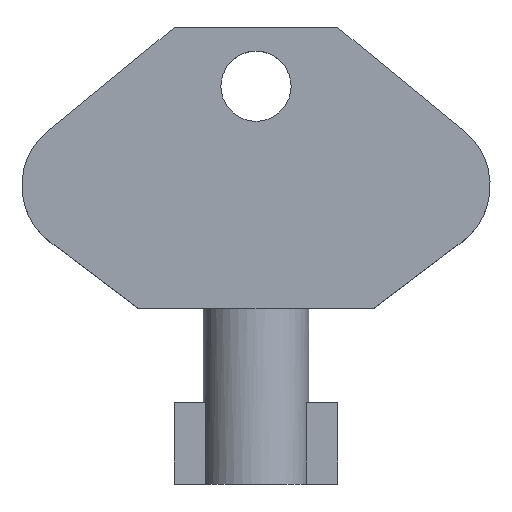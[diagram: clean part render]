
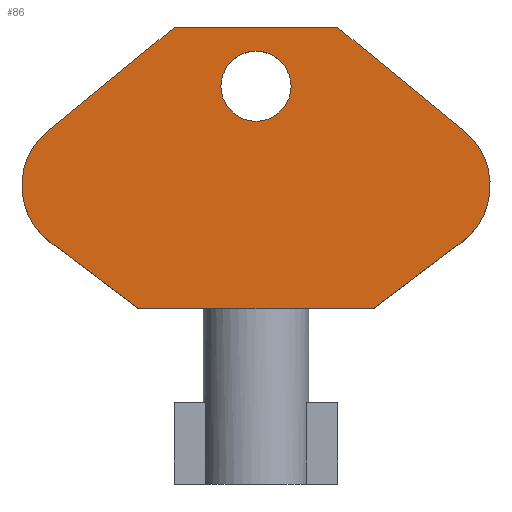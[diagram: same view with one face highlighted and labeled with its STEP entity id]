
A CAD part, top view. The second image highlights one B-rep face of the part: STEP entity #86.
In plain terms, the highlighted planar face has unit normal (0, 0, 1).
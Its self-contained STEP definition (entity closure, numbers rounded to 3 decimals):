
#86 = ADVANCED_FACE( '', ( #176, #177 ), #178, .T. );
#176 = FACE_BOUND( '', #263, .T. );
#177 = FACE_OUTER_BOUND( '', #264, .T. );
#178 = PLANE( '', #265 );
#263 = EDGE_LOOP( '', ( #442 ) );
#264 = EDGE_LOOP( '', ( #443, #444, #445, #446, #447, #448, #449, #450 ) );
#265 = AXIS2_PLACEMENT_3D( '', #451, #452, #453 );
#442 = ORIENTED_EDGE( '', *, *, #555, .F. );
#443 = ORIENTED_EDGE( '', *, *, #557, .T. );
#444 = ORIENTED_EDGE( '', *, *, #487, .T. );
#445 = ORIENTED_EDGE( '', *, *, #548, .T. );
#446 = ORIENTED_EDGE( '', *, *, #536, .T. );
#447 = ORIENTED_EDGE( '', *, *, #550, .T. );
#448 = ORIENTED_EDGE( '', *, *, #539, .T. );
#449 = ORIENTED_EDGE( '', *, *, #525, .T. );
#450 = ORIENTED_EDGE( '', *, *, #553, .T. );
#451 = CARTESIAN_POINT( '', ( -14., 25.5, 5.297 ) );
#452 = DIRECTION( '', ( 0., 0., 1. ) );
#453 = DIRECTION( '', ( 1., 0., 0. ) );
#487 = EDGE_CURVE( '', #568, #566, #569, .T. );
#525 = EDGE_CURVE( '', #633, #631, #634, .T. );
#536 = EDGE_CURVE( '', #646, #644, #647, .T. );
#539 = EDGE_CURVE( '', #650, #633, #651, .T. );
#548 = EDGE_CURVE( '', #566, #646, #662, .T. );
#550 = EDGE_CURVE( '', #644, #650, #664, .T. );
#553 = EDGE_CURVE( '', #631, #666, #668, .T. );
#555 = EDGE_CURVE( '', #670, #670, #671, .T. );
#557 = EDGE_CURVE( '', #666, #568, #673, .T. );
#566 = VERTEX_POINT( '', #682 );
#568 = VERTEX_POINT( '', #685 );
#569 = CIRCLE( '', #686, 6. );
#631 = VERTEX_POINT( '', #769 );
#633 = VERTEX_POINT( '', #772 );
#634 = LINE( '', #773, #774 );
#644 = VERTEX_POINT( '', #789 );
#646 = VERTEX_POINT( '', #792 );
#647 = LINE( '', #793, #794 );
#650 = VERTEX_POINT( '', #798 );
#651 = CIRCLE( '', #799, 6. );
#662 = LINE( '', #813, #814 );
#664 = LINE( '', #816, #817 );
#666 = VERTEX_POINT( '', #819 );
#668 = LINE( '', #822, #823 );
#670 = VERTEX_POINT( '', #825 );
#671 = CIRCLE( '', #826, 3. );
#673 = LINE( '', #828, #829 );
#682 = CARTESIAN_POINT( '', ( -17.6, 20.7, 5.297 ) );
#685 = CARTESIAN_POINT( '', ( -17.805, 30.139, 5.297 ) );
#686 = AXIS2_PLACEMENT_3D( '', #838, #839, #840 );
#769 = CARTESIAN_POINT( '', ( 7., 39., 5.297 ) );
#772 = CARTESIAN_POINT( '', ( 17.805, 30.139, 5.297 ) );
#773 = CARTESIAN_POINT( '', ( 17.805, 30.139, 5.297 ) );
#774 = VECTOR( '', #887, 1000. );
#789 = CARTESIAN_POINT( '', ( 10., 15., 5.297 ) );
#792 = CARTESIAN_POINT( '', ( -10., 15., 5.297 ) );
#793 = CARTESIAN_POINT( '', ( -10., 15., 5.297 ) );
#794 = VECTOR( '', #894, 1000. );
#798 = CARTESIAN_POINT( '', ( 17.6, 20.7, 5.297 ) );
#799 = AXIS2_PLACEMENT_3D( '', #896, #897, #898 );
#813 = CARTESIAN_POINT( '', ( -17.6, 20.7, 5.297 ) );
#814 = VECTOR( '', #908, 1000. );
#816 = CARTESIAN_POINT( '', ( 10., 15., 5.297 ) );
#817 = VECTOR( '', #909, 1000. );
#819 = CARTESIAN_POINT( '', ( -7., 39., 5.297 ) );
#822 = CARTESIAN_POINT( '', ( 7., 39., 5.297 ) );
#823 = VECTOR( '', #911, 1000. );
#825 = CARTESIAN_POINT( '', ( 3., 34., 5.297 ) );
#826 = AXIS2_PLACEMENT_3D( '', #912, #913, #914 );
#828 = CARTESIAN_POINT( '', ( -7., 39., 5.297 ) );
#829 = VECTOR( '', #915, 1000. );
#838 = CARTESIAN_POINT( '', ( -14., 25.5, 5.297 ) );
#839 = DIRECTION( '', ( 0., 0., 1. ) );
#840 = DIRECTION( '', ( 1., 0., 0. ) );
#887 = DIRECTION( '', ( -0.773, 0.634, 0. ) );
#894 = DIRECTION( '', ( 1., 0., 0. ) );
#896 = CARTESIAN_POINT( '', ( 14., 25.5, 5.297 ) );
#897 = DIRECTION( '', ( 0., 0., 1. ) );
#898 = DIRECTION( '', ( 1., 0., 0. ) );
#908 = DIRECTION( '', ( 0.8, -0.6, 0. ) );
#909 = DIRECTION( '', ( 0.8, 0.6, 0. ) );
#911 = DIRECTION( '', ( -1., 0., 0. ) );
#912 = CARTESIAN_POINT( '', ( 0., 34., 5.297 ) );
#913 = DIRECTION( '', ( 0., 0., 1. ) );
#914 = DIRECTION( '', ( 1., 0., 0. ) );
#915 = DIRECTION( '', ( -0.773, -0.634, 0. ) );
